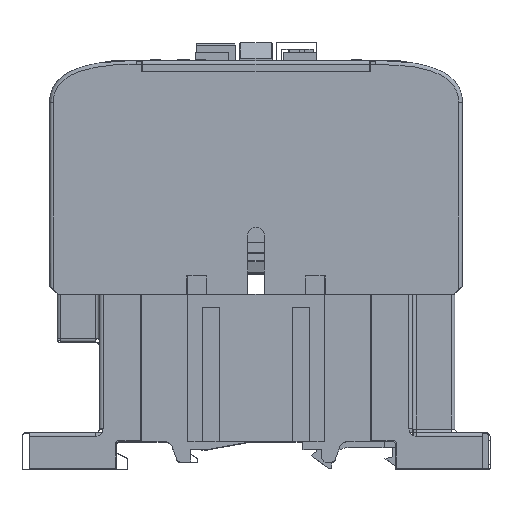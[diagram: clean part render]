
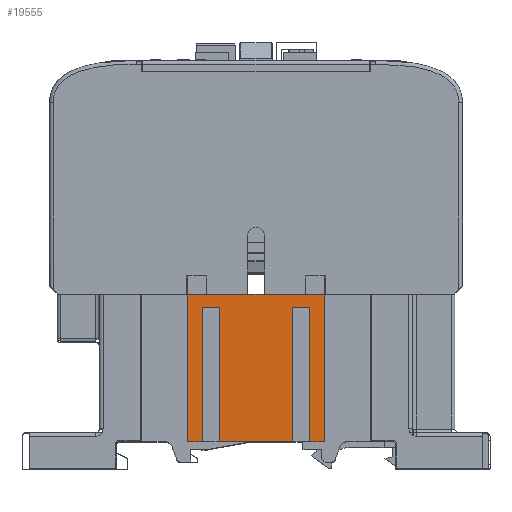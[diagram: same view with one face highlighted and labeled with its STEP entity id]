
A CAD part, top view. The second image highlights one B-rep face of the part: STEP entity #19555.
In plain terms, the highlighted planar face has unit normal (0, 0, 1).
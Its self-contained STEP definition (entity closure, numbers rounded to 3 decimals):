
#313=DIRECTION('',(-1.,0.,0.));
#314=VECTOR('',#313,37.);
#315=CARTESIAN_POINT('',(18.5,0.,36.75));
#316=LINE('',#315,#314);
#2466=DIRECTION('',(-1.,0.,0.));
#2467=VECTOR('',#2466,4.595);
#2468=CARTESIAN_POINT('',(14.595,-3.5,36.75));
#2469=LINE('',#2468,#2467);
#2470=DIRECTION('',(0.,-1.,0.));
#2471=VECTOR('',#2470,36.5);
#2472=CARTESIAN_POINT('',(10.,-3.5,36.75));
#2473=LINE('',#2472,#2471);
#2474=DIRECTION('',(1.,0.,0.));
#2475=VECTOR('',#2474,20.);
#2476=CARTESIAN_POINT('',(-10.,-40.,36.75));
#2477=LINE('',#2476,#2475);
#2478=DIRECTION('',(0.,-1.,0.));
#2479=VECTOR('',#2478,36.5);
#2480=CARTESIAN_POINT('',(-10.,-3.5,36.75));
#2481=LINE('',#2480,#2479);
#2482=DIRECTION('',(-1.,0.,0.));
#2483=VECTOR('',#2482,4.595);
#2484=CARTESIAN_POINT('',(-10.,-3.5,36.75));
#2485=LINE('',#2484,#2483);
#2486=DIRECTION('',(0.,-1.,0.));
#2487=VECTOR('',#2486,36.5);
#2488=CARTESIAN_POINT('',(-14.595,-3.5,36.75));
#2489=LINE('',#2488,#2487);
#2490=DIRECTION('',(1.,0.,0.));
#2491=VECTOR('',#2490,3.905);
#2492=CARTESIAN_POINT('',(-18.5,-40.,36.75));
#2493=LINE('',#2492,#2491);
#2494=DIRECTION('',(0.,1.,0.));
#2495=VECTOR('',#2494,40.);
#2496=CARTESIAN_POINT('',(-18.5,-40.,36.75));
#2497=LINE('',#2496,#2495);
#2498=DIRECTION('',(0.,1.,0.));
#2499=VECTOR('',#2498,40.);
#2500=CARTESIAN_POINT('',(18.5,-40.,36.75));
#2501=LINE('',#2500,#2499);
#2502=DIRECTION('',(1.,0.,0.));
#2503=VECTOR('',#2502,3.905);
#2504=CARTESIAN_POINT('',(14.595,-40.,36.75));
#2505=LINE('',#2504,#2503);
#2506=DIRECTION('',(0.,-1.,0.));
#2507=VECTOR('',#2506,36.5);
#2508=CARTESIAN_POINT('',(14.595,-3.5,36.75));
#2509=LINE('',#2508,#2507);
#13687=CARTESIAN_POINT('',(18.5,0.,36.75));
#13688=CARTESIAN_POINT('',(-18.5,0.,36.75));
#13689=VERTEX_POINT('',#13687);
#13690=VERTEX_POINT('',#13688);
#13695=CARTESIAN_POINT('',(-18.5,-40.,36.75));
#13696=VERTEX_POINT('',#13695);
#13697=CARTESIAN_POINT('',(18.5,-40.,36.75));
#13698=VERTEX_POINT('',#13697);
#14518=CARTESIAN_POINT('',(10.,-3.5,36.75));
#14520=VERTEX_POINT('',#14518);
#14521=CARTESIAN_POINT('',(-10.,-3.5,36.75));
#14523=VERTEX_POINT('',#14521);
#14529=CARTESIAN_POINT('',(14.595,-3.5,36.75));
#14530=VERTEX_POINT('',#14529);
#14531=CARTESIAN_POINT('',(-14.595,-3.5,36.75));
#14532=VERTEX_POINT('',#14531);
#14533=CARTESIAN_POINT('',(14.595,-40.,36.75));
#14534=VERTEX_POINT('',#14533);
#14535=CARTESIAN_POINT('',(10.,-40.,36.75));
#14536=VERTEX_POINT('',#14535);
#14537=CARTESIAN_POINT('',(-10.,-40.,36.75));
#14538=VERTEX_POINT('',#14537);
#14539=CARTESIAN_POINT('',(-14.595,-40.,36.75));
#14540=VERTEX_POINT('',#14539);
#19525=CARTESIAN_POINT('',(-63.5,0.,36.75));
#19526=DIRECTION('',(0.,0.,1.));
#19527=DIRECTION('',(1.,0.,0.));
#19528=AXIS2_PLACEMENT_3D('',#19525,#19526,#19527);
#19529=PLANE('',#19528);
#19531=ORIENTED_EDGE('',*,*,#19530,.T.);
#19533=ORIENTED_EDGE('',*,*,#19532,.T.);
#19535=ORIENTED_EDGE('',*,*,#19534,.F.);
#19537=ORIENTED_EDGE('',*,*,#19536,.F.);
#19539=ORIENTED_EDGE('',*,*,#19538,.T.);
#19541=ORIENTED_EDGE('',*,*,#19540,.T.);
#19543=ORIENTED_EDGE('',*,*,#19542,.F.);
#19545=ORIENTED_EDGE('',*,*,#19544,.T.);
#19546=ORIENTED_EDGE('',*,*,#18400,.F.);
#19548=ORIENTED_EDGE('',*,*,#19547,.F.);
#19550=ORIENTED_EDGE('',*,*,#19549,.F.);
#19552=ORIENTED_EDGE('',*,*,#19551,.F.);
#19553=EDGE_LOOP('',(#19531,#19533,#19535,#19537,#19539,#19541,#19543,#19545,
#19546,#19548,#19550,#19552));
#19554=FACE_OUTER_BOUND('',#19553,.F.);
#19555=ADVANCED_FACE('',(#19554),#19529,.T.);
#18400=EDGE_CURVE('',#13689,#13690,#316,.T.);
#19530=EDGE_CURVE('',#14530,#14520,#2469,.T.);
#19532=EDGE_CURVE('',#14520,#14536,#2473,.T.);
#19534=EDGE_CURVE('',#14538,#14536,#2477,.T.);
#19536=EDGE_CURVE('',#14523,#14538,#2481,.T.);
#19538=EDGE_CURVE('',#14523,#14532,#2485,.T.);
#19540=EDGE_CURVE('',#14532,#14540,#2489,.T.);
#19542=EDGE_CURVE('',#13696,#14540,#2493,.T.);
#19544=EDGE_CURVE('',#13696,#13690,#2497,.T.);
#19547=EDGE_CURVE('',#13698,#13689,#2501,.T.);
#19549=EDGE_CURVE('',#14534,#13698,#2505,.T.);
#19551=EDGE_CURVE('',#14530,#14534,#2509,.T.);
